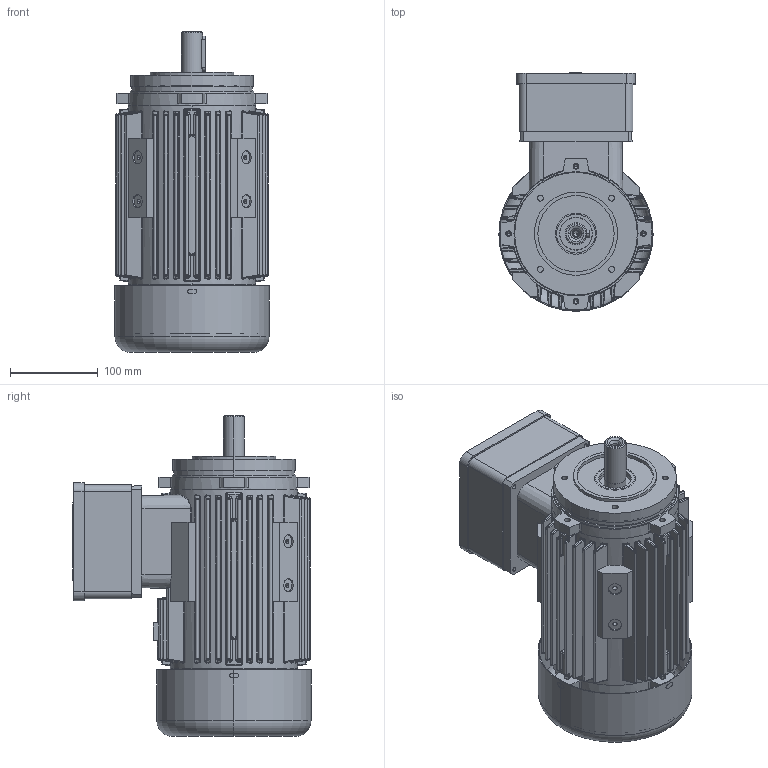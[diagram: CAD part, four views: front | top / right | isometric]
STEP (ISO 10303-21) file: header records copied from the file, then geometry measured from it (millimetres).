
FILE_DESCRIPTION (( 'STEP AP214' ), '1' );
FILE_NAME ('20.18453-C 7AT 90 B14_small Exde STANDK.STEP', '2018-05-09T12:41:15', ( '' ), ( '' ), 'SwSTEP 2.0', 'SolidWorks 2017', '' );
FILE_SCHEMA (( 'AUTOMOTIVE_DESIGN' ));
Length unit declared in the file: millimetre
Products named in the file (1): 20.18453-C 7AT 90 B14_small Exde STANDK
Bounding box: 176 x 271.8 x 366 mm (x, y, z)
Volume: 2824618.7 mm3; surface area: 886491 mm2
Topology: 12 solids, 12 shells, 2686 faces, 6529 edges, 3918 vertices
Faces by surface type: plane 1030, cylinder 788, bspline 635, torus 107, cone 100, sphere 26
Entity records: 129785 total; most frequent: CARTESIAN_POINT 45483, ORIENTED_EDGE 12706, DIRECTION 10751, EDGE_CURVE 6353, VERTEX_POINT 3920, AXIS2_PLACEMENT_3D 3831, VECTOR 3089, LINE 3089
